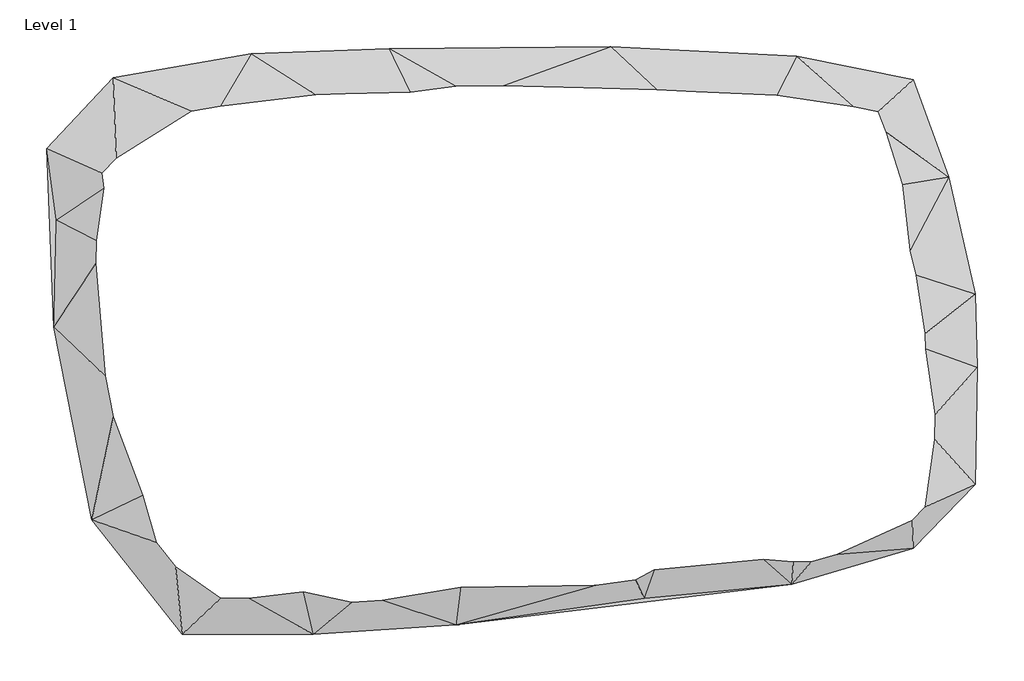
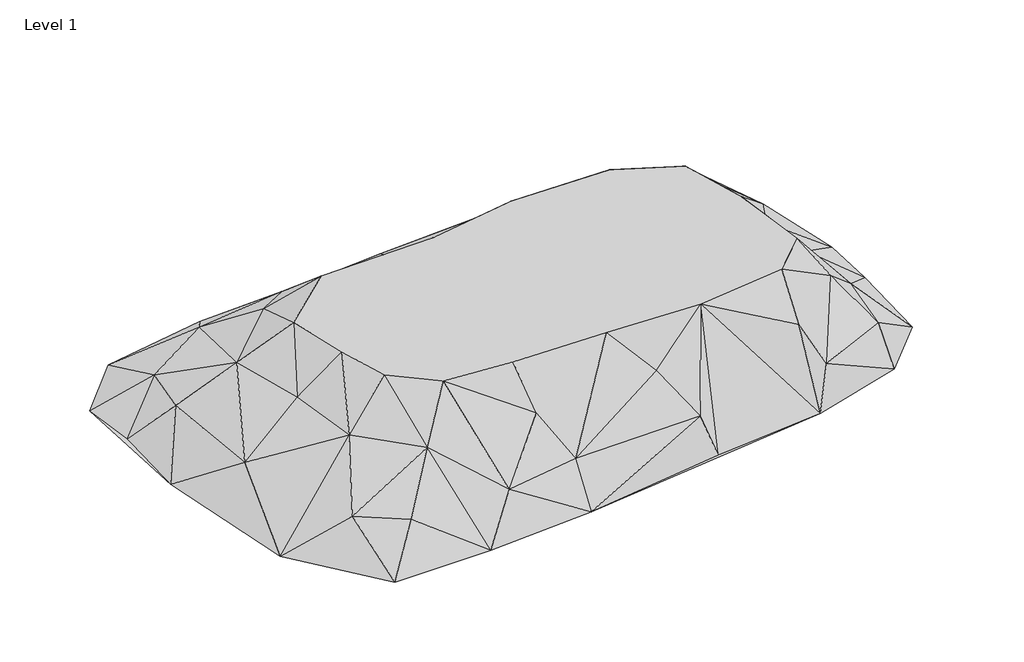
# One storey: 1 proxy.
"""IFC4 building model written with IfcOpenShell, lengths in millimetres."""

import ifcopenshell
import ifcopenshell.guid

model = None  # the IFC model being written
_history = None  # IfcOwnerHistory: only IFC2X3 demands one
_inside = {}  # id of a spatial element -> (the spatial element, [elements in it])
_under = {}  # id of a project, library or spatial element -> (it, [spatial elements below it])
_declared = {}  # id of a project -> (the project, [libraries it declares])
_typed = {}  # id of a type object -> (the type object, [elements of that type])
_made_of = {}  # id of a material, layer set ... -> (it, [elements and type objects made of it])


def new_model(schema):
    """Start an empty IFC model of exactly this schema.

    Asked for "IFC4X3", IfcOpenShell would pick the latest addendum, in which some entities
    have other attributes; the version numbers below select the first issue.
    IFC2X3 requires an IfcOwnerHistory on every rooted entity: one is made here for all.
    """
    global model, _history
    if schema == "IFC4X3":
        model = ifcopenshell.file(schema_version=(4, 3, 0, 0))
    else:
        model = ifcopenshell.file(schema=schema)
    _inside.clear()
    _under.clear()
    _declared.clear()
    _typed.clear()
    _made_of.clear()
    _history = None
    if model.schema == "IFC2X3":
        org = make("IfcOrganization", Name="unknown")
        user = make(
            "IfcPersonAndOrganization",
            ThePerson=make("IfcPerson", FamilyName="unknown"),
            TheOrganization=org,
        )
        app = make(
            "IfcApplication",
            ApplicationDeveloper=org,
            Version="unknown",
            ApplicationFullName="unknown",
            ApplicationIdentifier="unknown",
        )
        _history = make(
            "IfcOwnerHistory",
            OwningUser=user,
            OwningApplication=app,
            ChangeAction="ADDED",
            CreationDate=0,
        )
    return model


def make(cls, **values):
    """One entity of the class cls with the attributes given. An attribute that is None is left unset."""
    return model.create_entity(
        cls, **{name: value for name, value in values.items() if value is not None}
    )


def rooted(cls, **values):
    """An entity with a GlobalId (a new one), such as an element, a storey or a relation."""
    return make(cls, GlobalId=ifcopenshell.guid.new(), OwnerHistory=_history, **values)


def si_unit(unit_type, name, prefix=None):
    """IfcSIUnit, for example si_unit("LENGTHUNIT", "METRE", prefix="MILLI")."""
    return make("IfcSIUnit", UnitType=unit_type, Prefix=prefix, Name=name)


def assignment(units):
    """IfcUnitAssignment: the units of a project."""
    return None if units is None else make("IfcUnitAssignment", Units=units)


def point(xyz):
    """IfcCartesianPoint."""
    return None if xyz is None else make("IfcCartesianPoint", Coordinates=xyz)


def direction(xyz):
    """IfcDirection."""
    return None if xyz is None else make("IfcDirection", DirectionRatios=xyz)


def frame(location, z_axis=None, x_axis=None):
    """IfcAxis2Placement3D, a coordinate frame: its origin and axes. An axis left out is left unset."""
    return make(
        "IfcAxis2Placement3D",
        Location=point(location),
        Axis=direction(z_axis),
        RefDirection=direction(x_axis),
    )


def origin():
    """The frame at (0, 0, 0) with its axes left unset."""
    return frame((0.0, 0.0, 0.0))


def place(relative_to, where):
    """IfcLocalPlacement: puts the frame where relative to a parent placement (None: the world)."""
    return make(
        "IfcLocalPlacement", PlacementRelTo=relative_to, RelativePlacement=where
    )


def context(
    kind, dimensions, precision=None, world=None, true_north=None, identifier=None
):
    """IfcGeometricRepresentationContext, for example the 3D "Model" context."""
    return make(
        "IfcGeometricRepresentationContext",
        ContextIdentifier=identifier,
        ContextType=kind,
        CoordinateSpaceDimension=dimensions,
        Precision=precision,
        WorldCoordinateSystem=world,
        TrueNorth=true_north,
    )


def project(units=None, contexts=None):
    """IfcProject with its units and contexts."""
    return rooted(
        "IfcProject",
        Name="project",
        RepresentationContexts=contexts,
        UnitsInContext=assignment(units),
    )


def spatial(cls, under=None, at=None, **own):
    """A site, building, storey or space (cls), placed at a placement, below another one or the project."""
    s = rooted(cls, ObjectPlacement=at, **own)
    if under is not None:
        _under.setdefault(under.id(), (under, []))[1].append(s)
    return s


def point_list(points):
    """IfcCartesianPointList2D or 3D."""
    cls = (
        "IfcCartesianPointList2D" if len(points[0]) == 2 else "IfcCartesianPointList3D"
    )
    return make(cls, CoordList=points)


def triangles(points, corners, closed=None, point_numbers=None):
    """IfcTriangulatedFaceSet: each triangle names its three corners, points numbered from 1."""
    return make(
        "IfcTriangulatedFaceSet",
        Coordinates=point_list(points),
        Closed=closed,
        CoordIndex=corners,
        PnIndex=point_numbers,
    )


def shape(context_of_items, identifier, shape_type, items):
    """IfcShapeRepresentation: the items that make up one representation, for example the "Body"."""
    return make(
        "IfcShapeRepresentation",
        ContextOfItems=context_of_items,
        RepresentationIdentifier=identifier,
        RepresentationType=shape_type,
        Items=items,
    )


def made_of(thing, what):
    """Note that an element or type object is made of a material, layer set ...; save() writes the relation."""
    if what is not None:
        _made_of.setdefault(what.id(), (what, []))[1].append(thing)
    return thing


def element(
    cls,
    number,
    at=None,
    inside=None,
    cuts=None,
    type_object=None,
    material=None,
    context=None,
    identifier="Body",
    shape_type=None,
    held_by="IfcProductDefinitionShape",
    body=None,
    shapes=None,
    **own,
):
    """One element of the class cls, such as IfcWall. Its Tag is "e" and its number.

    at: its placement. inside: the storey or other place that contains it. cuts: it is an
    opening in that element (IfcRelVoidsElement). A single representation is given by context,
    identifier, shape_type and body (its items); several are given by shapes. held_by: the class
    of the entity that holds the representations. save() writes the other relations.
    """
    e = rooted(cls, Tag="e%d" % number, ObjectPlacement=at, **own)
    if body is not None:
        shapes = [shape(context, identifier, shape_type, body)]
    if shapes is not None:
        e.Representation = make(held_by, Representations=shapes)
    if inside is not None:
        _inside.setdefault(inside.id(), (inside, []))[1].append(e)
    if cuts is not None:
        rooted(
            "IfcRelVoidsElement", RelatingBuildingElement=cuts, RelatedOpeningElement=e
        )
    if type_object is not None:
        _typed.setdefault(type_object.id(), (type_object, []))[1].append(e)
    return made_of(e, material)


def aggregate(whole, parts):
    """IfcRelAggregates: a whole, such as a stair, and the parts it consists of."""
    return rooted("IfcRelAggregates", RelatingObject=whole, RelatedObjects=parts)


def save(model, path):
    """Write the relations noted so far, then the file.

    IfcRelAggregates (storeys below a building ...), IfcRelContainedInSpatialStructure (elements
    in a storey), IfcRelDefinesByType, IfcRelAssociatesMaterial and IfcRelDeclares: one each for
    every whole, place, type object, material and project.
    """
    for whole, parts in _under.values():
        aggregate(whole, parts)
    for where, things in _inside.values():
        rooted(
            "IfcRelContainedInSpatialStructure",
            RelatedElements=things,
            RelatingStructure=where,
        )
    for kind, things in _typed.values():
        rooted("IfcRelDefinesByType", RelatedObjects=things, RelatingType=kind)
    for what, things in _made_of.values():
        rooted("IfcRelAssociatesMaterial", RelatedObjects=things, RelatingMaterial=what)
    for by, libraries in _declared.values():
        rooted("IfcRelDeclares", RelatingContext=by, RelatedDefinitions=libraries)
    model.write(path)


model = new_model("IFC4")

# Units and contexts
model_context = context("Model", 3, world=origin())
ifc_project = project(units=[si_unit("LENGTHUNIT", "METRE", prefix="MILLI")], contexts=[model_context])

# Site, building, storey
site = spatial("IfcSite", under=ifc_project)
building = spatial("IfcBuilding", under=site)
storey = spatial("IfcBuildingStorey", under=building, Name="Level 1", Elevation=0.0)

# Proxy
placement = place(None, origin())
element("IfcBuildingElementProxy", 1, Name="Building Element Proxy", at=placement, inside=storey, context=model_context, shape_type="Tessellation", body=[
    triangles([(-16670.5417511, 5651.6538666, 0.0), (-16985.1585938, 8011.2813492, 0.0), (-14782.8395325, 10370.9088318, 0.0), (-10220.8924072, 11157.4515198, 0.0), (-5658.9458633, 11314.7593597, 0.0), (1655.8995071, 11393.4138611, 0.0), (7790.931427, 11078.7970184, 0.0), (11644.9892029, 10292.2543304, 0.0), (12824.8032349, 7067.4302399, 0.0), (13690.0004242, 3213.3718826, 0.0), (13768.6549255, 775.090044, 0.0), (13690.0004242, -3078.9684586, 0.0), (11644.9892029, -5202.6330185, 0.0), (7633.6230057, -6382.4470505, 0.0), (2757.0590378, -6854.3723145, 0.0), (-3456.6268021, -7719.5695038, 0.0), (-8175.8823486, -8034.1863464, 0.0), (-12501.8659698, -8034.1863464, 0.0), (-15490.7277191, -4258.7821999, 0.0), (-16749.1962524, 2112.212352, 0.0), (-14664.8583618, 6988.7757385, 1524.0), (-11518.6876099, 8955.1324585, 1524.0), (-7507.3208313, 9427.0577225, 1524.0), (-2866.7200768, 9741.6751465, 1524.0), (515.4128712, 9663.0206451, 1524.0), (3582.9286858, 9584.3661438, 1524.0), (6965.0614883, 9427.0577225, 1524.0), (10189.8861603, 8955.1324585, 1524.0), (10897.7743469, 6752.8133972, 1524.0), (11212.3911896, 3999.9142799, 1524.0), (11605.6625336, 1561.6325867, 1524.0), (11998.9338776, -1191.2663126, 1524.0), (11605.6625336, -4022.8192772, 1524.0), (8459.492363, -5438.5959412, 1524.0), (2403.1149445, -6067.8302078, 1524.0), (-3259.9914207, -6146.4841278, 1524.0), (-6563.469722, -6697.0638931, 1524.0), (-10889.4539246, -6539.7554718, 1524.0), (-12777.1561432, -5202.6330185, 1524.0), (-14586.2038605, 67.2017484, 1524.0), (-14979.4752045, 4786.4569679, 1524.0), (-11675.9966125, 1011.0528214, 3048.0), (-12541.1926392, 4235.8772026, 3048.0), (-9788.2943939, 6910.1218185, 3048.0), (-3889.2253967, 7696.6645065, 3048.0), (436.7585878, 8089.9352692, 3048.0), (5077.3592697, 8089.9352692, 3048.0), (7358.3328323, 7618.0100052, 3048.0), (9875.2693176, 5258.3825226, 3048.0), (10347.1940002, 1247.0155987, 3048.0), (10504.5030029, -2213.7715599, 3048.0), (7751.6041763, -4494.7448318, 3048.0), (1380.6096245, -4416.0906212, 3048.0), (-4125.1880287, -4573.3990425, 3048.0), (-9001.7517059, -4494.7448318, 3048.0), (-11204.0707672, -2213.7715599, 3048.0), (-9709.6398926, 932.398538, 4572.0), (-10338.8735779, 3606.6432266, 4572.0), (-7821.9382553, 5808.9622879, 4572.0), (-2709.4116554, 5887.6162079, 4572.0), (1144.6468472, 6516.8504745, 4572.0), (5549.2851151, 6438.1959732, 4572.0), (8223.5294403, 5179.7280212, 4572.0), (9088.7266296, 2190.8665627, 4572.0), (9560.6518936, -1269.9205959, 4572.0), (7987.567099, -2764.3513252, 4572.0), (4054.8542404, -3236.2768799, 4572.0), (-113.8211684, -3078.9684586, 4572.0), (-4282.49645, -3000.3142479, 4572.0), (-7271.3579086, -2764.3513252, 4572.0), (-9080.4062073, -1269.9205959, 4572.0)], [[19, 39, 56], [39, 19, 18], [18, 38, 39], [38, 18, 17], [56, 39, 55], [42, 40, 56], [56, 40, 19], [57, 71, 70], [71, 57, 56], [71, 56, 55], [42, 56, 57], [55, 39, 38], [19, 40, 20], [17, 37, 55], [37, 17, 16], [16, 36, 37], [68, 36, 53], [37, 36, 54], [55, 70, 71], [55, 37, 70], [69, 54, 68], [54, 69, 70], [68, 54, 36], [69, 60, 57], [37, 54, 70], [69, 57, 70], [36, 16, 35], [17, 55, 38], [60, 69, 68], [20, 41, 1], [20, 40, 41], [22, 43, 44], [41, 40, 43], [40, 42, 43], [41, 43, 21], [2, 1, 21], [1, 2, 20], [3, 21, 22], [21, 3, 2], [21, 1, 41], [3, 22, 4], [43, 22, 21], [43, 42, 58], [23, 22, 44], [44, 58, 59], [44, 59, 23], [59, 58, 57], [42, 57, 58], [45, 59, 60], [4, 23, 5], [4, 22, 23], [5, 45, 24], [45, 5, 23], [46, 24, 45], [5, 24, 6], [23, 59, 45], [46, 45, 60], [44, 43, 58], [60, 59, 57], [60, 68, 61], [67, 35, 15], [35, 53, 36], [67, 15, 14], [34, 14, 13], [15, 16, 14], [52, 14, 34], [68, 67, 61], [53, 35, 67], [52, 51, 66], [64, 66, 65], [66, 64, 67], [52, 66, 67], [14, 52, 67], [62, 67, 64], [51, 52, 34], [35, 16, 15], [32, 51, 33], [51, 34, 33], [13, 12, 33], [65, 66, 51], [32, 33, 12], [65, 50, 64], [50, 65, 32], [31, 32, 11], [32, 31, 50], [11, 32, 12], [31, 11, 10], [65, 51, 32], [64, 50, 30], [34, 13, 33], [30, 50, 31], [26, 46, 61], [46, 60, 61], [47, 61, 62], [48, 62, 63], [67, 62, 61], [47, 62, 48], [25, 6, 24], [6, 25, 26], [26, 47, 27], [26, 25, 46], [27, 47, 48], [6, 26, 7], [61, 47, 26], [7, 26, 27], [48, 28, 27], [46, 25, 24], [49, 29, 48], [63, 64, 49], [49, 30, 29], [64, 30, 49], [64, 63, 62], [9, 30, 10], [7, 28, 8], [27, 28, 7], [9, 8, 28], [9, 29, 30], [9, 28, 29], [29, 28, 48], [63, 49, 48], [31, 10, 30], [68, 53, 67]], closed=False),
])

save(model, "model.ifc")
